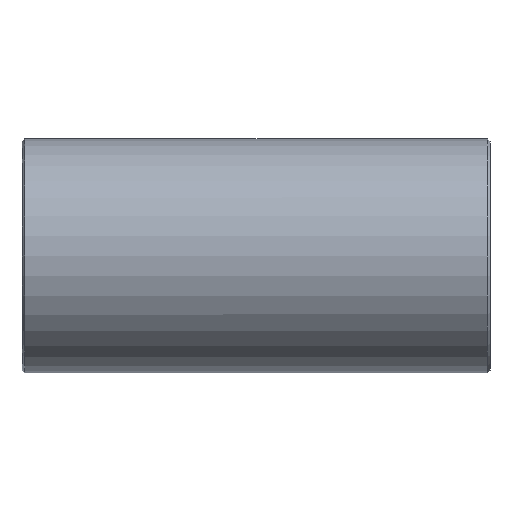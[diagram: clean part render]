
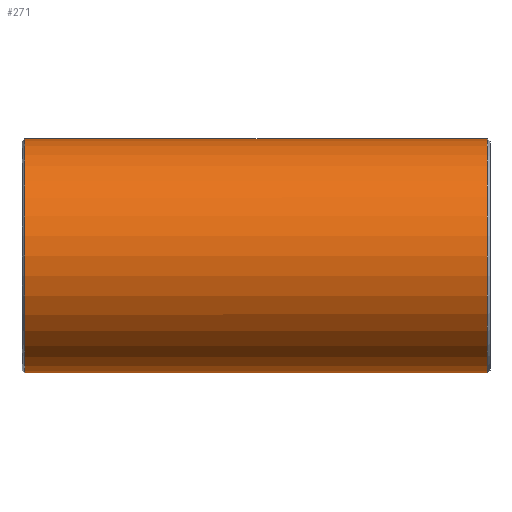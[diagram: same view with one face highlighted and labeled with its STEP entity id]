
A CAD part, front view. The second image highlights one B-rep face of the part: STEP entity #271.
In plain terms, the highlighted cylindrical face has radius 9.05 mm (diameter 18.1 mm), a full revolution.
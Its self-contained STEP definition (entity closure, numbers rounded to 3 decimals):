
#162=CARTESIAN_POINT('',(17.9,9.05,0.));
#163=VERTEX_POINT('',#162);
#164=CARTESIAN_POINT('',(17.9,0.0,0.0));
#165=DIRECTION('',(1.0,0.0,0.0));
#166=DIRECTION('',(0.0,-1.0,0.0));
#167=AXIS2_PLACEMENT_3D('',#164,#165,#166);
#168=CIRCLE('',#167,9.05);
#169=EDGE_CURVE('',#163,#163,#168,.T.);
#177=CARTESIAN_POINT('',(0.,0.0,0.0));
#178=DIRECTION('',(1.0,0.0,0.0));
#179=DIRECTION('',(0.0,1.0,0.0));
#180=AXIS2_PLACEMENT_3D('',#177,#178,#179);
#181=CYLINDRICAL_SURFACE('',#180,9.05);
#182=CARTESIAN_POINT('',(-17.9,9.05,0.));
#183=VERTEX_POINT('',#182);
#184=CARTESIAN_POINT('',(-17.9,0.0,0.0));
#185=DIRECTION('',(-1.0,0.0,0.0));
#186=DIRECTION('',(0.0,-1.0,0.0));
#187=AXIS2_PLACEMENT_3D('',#184,#185,#186);
#188=CIRCLE('',#187,9.05);
#189=EDGE_CURVE('',#183,#183,#188,.T.);
#190=ORIENTED_EDGE('',*,*,#189,.F.);
#191=EDGE_LOOP('',(#190));
#192=FACE_OUTER_BOUND('',#191,.T.);
#193=CARTESIAN_POINT('',(0.,6.646,6.143));
#194=VERTEX_POINT('',#193);
#195=CARTESIAN_POINT('',(-6.523,8.527,-3.031));
#196=VERTEX_POINT('',#195);
#197=CARTESIAN_POINT('',(0.,6.646,6.143));
#198=CARTESIAN_POINT('',(0.434,6.646,6.143));
#199=CARTESIAN_POINT('',(1.015,6.685,6.101));
#200=CARTESIAN_POINT('',(1.857,6.812,5.959));
#201=CARTESIAN_POINT('',(2.532,6.953,5.796));
#202=CARTESIAN_POINT('',(3.302,7.168,5.529));
#203=CARTESIAN_POINT('',(4.023,7.412,5.198));
#204=CARTESIAN_POINT('',(4.574,7.627,4.877));
#205=CARTESIAN_POINT('',(5.195,7.887,4.449));
#206=CARTESIAN_POINT('',(5.825,8.176,3.908));
#207=CARTESIAN_POINT('',(6.477,8.501,3.141));
#208=CARTESIAN_POINT('',(6.937,8.742,2.384));
#209=CARTESIAN_POINT('',(7.244,8.909,1.643));
#210=CARTESIAN_POINT('',(7.405,8.998,1.031));
#211=CARTESIAN_POINT('',(7.553,9.08,0.005));
#212=CARTESIAN_POINT('',(7.446,9.019,-1.116));
#213=CARTESIAN_POINT('',(6.978,8.764,-2.313));
#214=CARTESIAN_POINT('',(6.484,8.505,-3.132));
#215=CARTESIAN_POINT('',(5.849,8.188,-3.88));
#216=CARTESIAN_POINT('',(4.86,7.733,-4.743));
#217=CARTESIAN_POINT('',(3.658,7.26,-5.421));
#218=CARTESIAN_POINT('',(2.282,6.886,-5.876));
#219=CARTESIAN_POINT('',(1.161,6.692,-6.093));
#220=CARTESIAN_POINT('',(0.199,6.635,-6.155));
#221=CARTESIAN_POINT('',(-0.578,6.657,-6.13));
#222=CARTESIAN_POINT('',(-1.34,6.724,-6.058));
#223=CARTESIAN_POINT('',(-2.275,6.885,-5.877));
#224=CARTESIAN_POINT('',(-3.649,7.256,-5.426));
#225=CARTESIAN_POINT('',(-4.86,7.733,-4.743));
#226=CARTESIAN_POINT('',(-5.847,8.187,-3.882));
#227=CARTESIAN_POINT('',(-6.294,8.41,-3.356));
#228=CARTESIAN_POINT('',(-6.501,8.516,-3.063));
#229=CARTESIAN_POINT('',(-6.523,8.527,-3.031));
#230=B_SPLINE_CURVE_WITH_KNOTS('',3,(#197,#198,#199,#200,#201,#202,#203,#204,#205,#206,#207,#208,#209,#210,#211,#212,#213,#214,#215,#216,#217,#218,#219,#220,#221,#222,#223,#224,#225,#226,#227,#228,#229),.UNSPECIFIED.,.F.,.U.,(4,1,1,1,1,1,1,1,1,1,1,1,1,1,1,1,1,1,1,1,1,1,1,1,1,1,1,1,1,1,4),(-3.423,-3.331,-3.301,-3.24,-3.179,-3.118,-3.056,-3.026,-2.934,-2.853,-2.771,-2.71,-2.649,-2.608,-2.445,-2.364,-2.282,-2.201,-2.119,-1.956,-1.875,-1.793,-1.712,-1.671,-1.63,-1.549,-1.467,-1.304,-1.223,-1.141,-1.131),.UNSPECIFIED.);
#231=EDGE_CURVE('',#194,#196,#230,.T.);
#232=ORIENTED_EDGE('',*,*,#231,.F.);
#233=CARTESIAN_POINT('',(-6.523,8.527,3.031));
#234=VERTEX_POINT('',#233);
#235=CARTESIAN_POINT('',(-6.523,8.527,3.031));
#236=CARTESIAN_POINT('',(-6.502,8.516,3.062));
#237=CARTESIAN_POINT('',(-6.296,8.411,3.354));
#238=CARTESIAN_POINT('',(-5.751,8.139,3.997));
#239=CARTESIAN_POINT('',(-4.905,7.755,4.684));
#240=CARTESIAN_POINT('',(-4.025,7.413,5.197));
#241=CARTESIAN_POINT('',(-3.065,7.087,5.638));
#242=CARTESIAN_POINT('',(-2.003,6.82,5.952));
#243=CARTESIAN_POINT('',(-0.872,6.672,6.115));
#244=CARTESIAN_POINT('',(-0.289,6.646,6.143));
#245=CARTESIAN_POINT('',(0.,6.646,6.143));
#246=CARTESIAN_POINT('',(0.,6.646,6.143));
#247=CARTESIAN_POINT('',(0.,6.646,6.143));
#248=CARTESIAN_POINT('',(0.,6.646,6.143));
#249=B_SPLINE_CURVE_WITH_KNOTS('',3,(#235,#236,#237,#238,#239,#240,#241,#242,#243,#244,#245,#246,#247,#248),.UNSPECIFIED.,.F.,.U.,(4,1,1,1,1,1,1,1,3,4),(-0.58,-0.571,-0.489,-0.367,-0.306,-0.245,-0.122,-0.061,0.0,0.),.UNSPECIFIED.);
#250=EDGE_CURVE('',#234,#194,#249,.T.);
#251=ORIENTED_EDGE('',*,*,#250,.F.);
#252=CARTESIAN_POINT('',(-6.523,8.527,-3.031));
#253=CARTESIAN_POINT('',(-6.745,8.641,-2.711));
#254=CARTESIAN_POINT('',(-7.037,8.796,-2.187));
#255=CARTESIAN_POINT('',(-7.401,8.995,-1.164));
#256=CARTESIAN_POINT('',(-7.522,9.063,-0.322));
#257=CARTESIAN_POINT('',(-7.485,9.042,0.474));
#258=CARTESIAN_POINT('',(-7.373,8.98,1.262));
#259=CARTESIAN_POINT('',(-7.117,8.838,2.018));
#260=CARTESIAN_POINT('',(-6.748,8.643,2.691));
#261=CARTESIAN_POINT('',(-6.593,8.563,2.93));
#262=CARTESIAN_POINT('',(-6.523,8.527,3.031));
#263=B_SPLINE_CURVE_WITH_KNOTS('',3,(#252,#253,#254,#255,#256,#257,#258,#259,#260,#261,#262),.UNSPECIFIED.,.F.,.U.,(4,1,1,1,1,1,1,1,4),(-1.131,-1.032,-0.978,-0.856,-0.815,-0.774,-0.652,-0.611,-0.58),.UNSPECIFIED.);
#264=EDGE_CURVE('',#196,#234,#263,.T.);
#265=ORIENTED_EDGE('',*,*,#264,.F.);
#266=EDGE_LOOP('',(#232,#251,#265));
#267=FACE_BOUND('',#266,.T.);
#268=ORIENTED_EDGE('',*,*,#169,.F.);
#269=EDGE_LOOP('',(#268));
#270=FACE_BOUND('',#269,.T.);
#271=ADVANCED_FACE('',(#192,#267,#270),#181,.T.);
